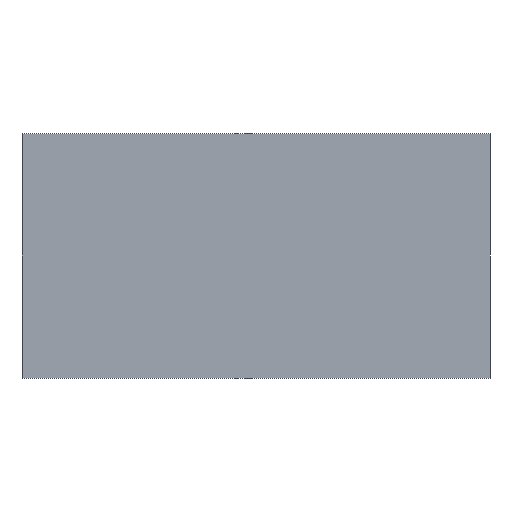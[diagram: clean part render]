
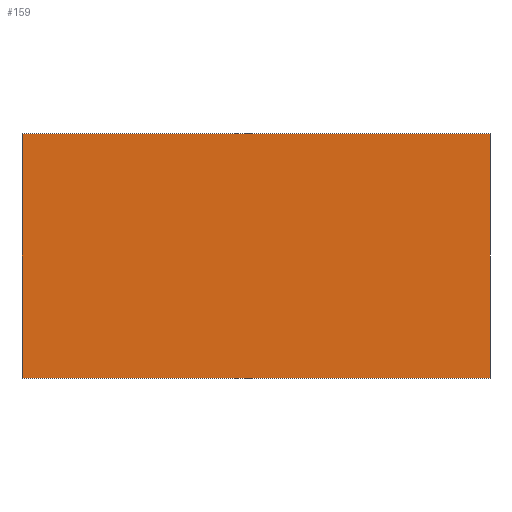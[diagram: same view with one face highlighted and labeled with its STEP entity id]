
A CAD part, left-side view. The second image highlights one B-rep face of the part: STEP entity #159.
In plain terms, the highlighted planar face has unit normal (-1, 0, 0).
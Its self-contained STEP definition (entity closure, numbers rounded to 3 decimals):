
#3 = VECTOR ( 'NONE', #53, 1000. ) ;
#4 = EDGE_LOOP ( 'NONE', ( #31, #22, #27, #196 ) ) ;
#8 = LINE ( 'NONE', #56, #190 ) ;
#10 = VECTOR ( 'NONE', #153, 1000. ) ;
#11 = CARTESIAN_POINT ( 'NONE',  ( 0., 0., 0. ) ) ;
#16 = EDGE_CURVE ( 'NONE', #96, #200, #104, .T. ) ;
#20 = CARTESIAN_POINT ( 'NONE',  ( 0., 0., 6. ) ) ;
#22 = ORIENTED_EDGE ( 'NONE', *, *, #16, .F. ) ;
#27 = ORIENTED_EDGE ( 'NONE', *, *, #149, .F. ) ;
#31 = ORIENTED_EDGE ( 'NONE', *, *, #75, .T. ) ;
#32 = CARTESIAN_POINT ( 'NONE',  ( 0., 0., 6. ) ) ;
#38 = DIRECTION ( 'NONE',  ( 0., 0., -1. ) ) ;
#49 = PLANE ( 'NONE',  #141 ) ;
#53 = DIRECTION ( 'NONE',  ( 0., 0., -1. ) ) ;
#54 = VECTOR ( 'NONE', #138, 1000. ) ;
#56 = CARTESIAN_POINT ( 'NONE',  ( 0., 0., 6. ) ) ;
#58 = CARTESIAN_POINT ( 'NONE',  ( 0., 11.5, 6. ) ) ;
#69 = CARTESIAN_POINT ( 'NONE',  ( 0., 0., 0. ) ) ;
#75 = EDGE_CURVE ( 'NONE', #97, #200, #167, .T. ) ;
#85 = LINE ( 'NONE', #142, #3 ) ;
#86 = CARTESIAN_POINT ( 'NONE',  ( 0., 11.5, 0. ) ) ;
#96 = VERTEX_POINT ( 'NONE', #32 ) ;
#97 = VERTEX_POINT ( 'NONE', #86 ) ;
#104 = LINE ( 'NONE', #20, #10 ) ;
#116 = FACE_OUTER_BOUND ( 'NONE', #4, .T. ) ;
#117 = CARTESIAN_POINT ( 'NONE',  ( 0., 0., 6. ) ) ;
#124 = DIRECTION ( 'NONE',  ( 0., -1., 0. ) ) ;
#138 = DIRECTION ( 'NONE',  ( 0., -1., 0. ) ) ;
#141 = AXIS2_PLACEMENT_3D ( 'NONE', #117, #180, #38 ) ;
#142 = CARTESIAN_POINT ( 'NONE',  ( 0., 11.5, 6. ) ) ;
#149 = EDGE_CURVE ( 'NONE', #150, #96, #8, .T. ) ;
#150 = VERTEX_POINT ( 'NONE', #58 ) ;
#153 = DIRECTION ( 'NONE',  ( 0., 0., -1. ) ) ;
#155 = EDGE_CURVE ( 'NONE', #150, #97, #85, .T. ) ;
#159 = ADVANCED_FACE ( 'NONE', ( #116 ), #49, .F. ) ;
#167 = LINE ( 'NONE', #69, #54 ) ;
#180 = DIRECTION ( 'NONE',  ( 1., 0., 0. ) ) ;
#190 = VECTOR ( 'NONE', #124, 1000. ) ;
#196 = ORIENTED_EDGE ( 'NONE', *, *, #155, .T. ) ;
#200 = VERTEX_POINT ( 'NONE', #11 ) ;
